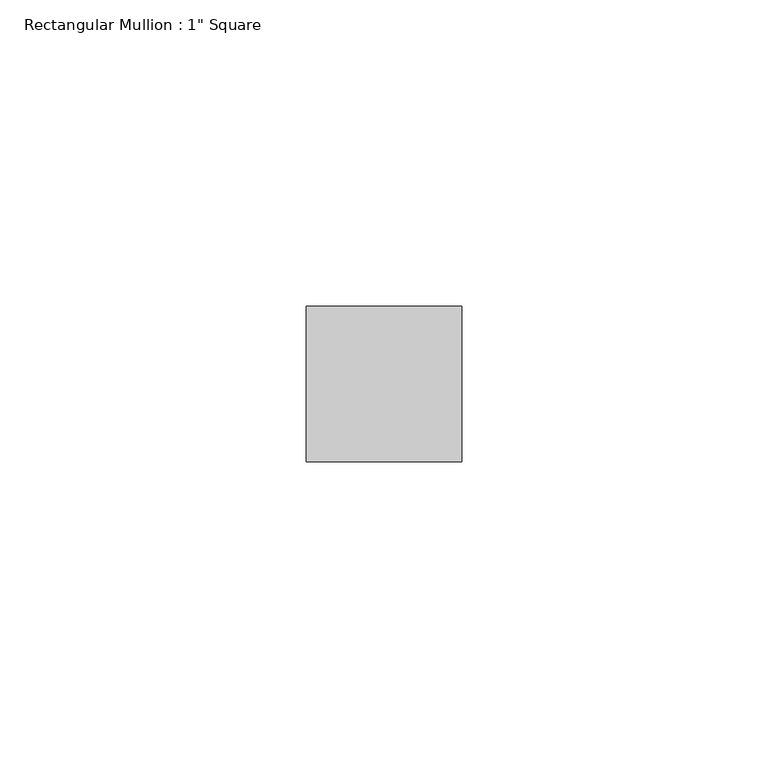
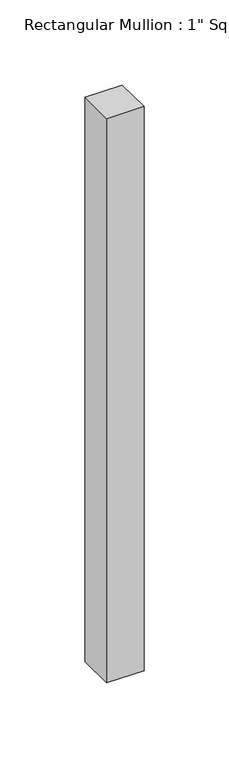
"""IFC4 building model written with IfcOpenShell, lengths in millimetres: member geometry."""

from ifc_helpers import new_model, si_unit, frame, origin, place, context, project, spatial, polyline, outline, extrude, source, transform, mapped, element, save


def member_61362789(model_context):
    return source(origin(), model_context, "Body", "SweptSolid", [
        extrude(outline(polyline([(12.7, 12.7), (12.7, -12.7), (-12.7, -12.7), (-12.7, 12.7), (12.7, 12.7)])), frame((0.0, 0.0, -405.0422424), z_axis=(0.0, 0.0, 1.0), x_axis=(1.0, 0.0, 0.0)), (0.0, 0.0, 1.0), 405.0422424),
    ])


if __name__ == "__main__":
    model = new_model("IFC4")
    model_context = context("Model", 3, world=origin())
    ifc_project = project(units=[si_unit("LENGTHUNIT", "METRE", prefix="MILLI")], contexts=[model_context])
    site = spatial("IfcSite", under=ifc_project)
    building = spatial("IfcBuilding", under=site)
    placement = place(None, origin())
    member_shape = member_61362789(model_context)
    element("IfcMember", 1, ObjectType="Rectangular Mullion : 1\" Square", at=placement, inside=building, context=model_context, shape_type="MappedRepresentation", body=[
        mapped(member_shape, transform((0.0, 0.0, 0.0), x_axis=(1.0, 0.0, 0.0), y_axis=(0.0, 1.0, 0.0), z_axis=(0.0, 0.0, 1.0))),
    ])
    save(model, "model.ifc")
